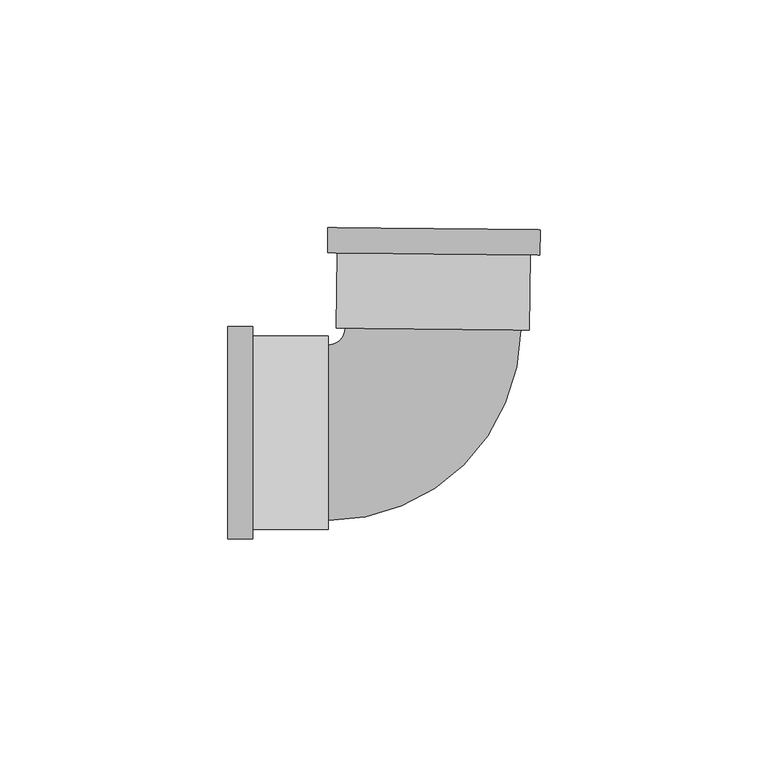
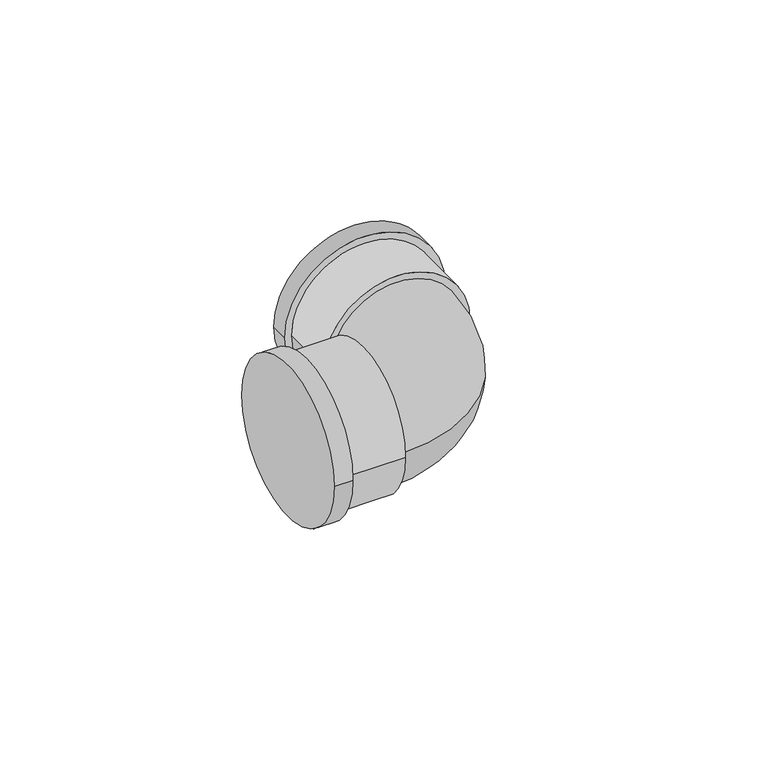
"""IFC4 building model written with IfcOpenShell, lengths in millimetres: pipe fitting geometry, Cotovelo - PVC - CW : Padrão."""

from ifc_helpers import new_model, si_unit, point, frame, origin, place, context, project, spatial, circle_curve, ellipse_curve, trimmed, source, transform, mapped, element, save
from ifc_brep_helpers import plane_surface, cylinder_surface, revolved_surface, advanced_brep


def pipe_fitting_56ef2ba5(model_context):
    return source(origin(), model_context, "Body", "AdvancedBrep", [
        advanced_brep(
        [(-44.77115, -23.2925, 0.0), (-44.77115, 23.2925, 0.0), (-39.27115, -23.2925, 0.0), (-39.27115, 23.2925, 0.0), (-39.27115, -21.175, 0.0), (-39.27115, 21.175, 0.0), (-22.77115, 21.175, 0.0), (-22.77115, -21.175, 0.0), (-22.77115, -19.25, 0.0), (-22.77115, 19.25, 0.0), (-19.0213375, 22.9625019, 0.0), (19.4767377, 22.5775211, 0.0), (21.4016414, 22.5582721, 0.0), (-20.9462412, 22.9817509, 0.0), (-22.8436463, 45.0018249, 0.0), (23.7390246, 44.5359982, 0.0), (21.5666332, 39.0574471, 0.0), (-20.7812495, 39.480926, 0.0), (-22.8986436, 39.5020999, 0.0), (23.6840273, 39.0362732, 0.0)],
        [
            (0, 1, circle_curve(frame((-44.77115, 0.0, 0.0), z_axis=(-1.0, 0.0, 0.0), x_axis=(0.0, 1.0, 0.0)), 23.2925)),
            (1, 0, circle_curve(frame((-44.77115, 0.0, 0.0), z_axis=(-1.0, 0.0, 0.0), x_axis=(0.0, 1.0, 0.0)), 23.2925)),
            (2, 3, circle_curve(frame((-39.27115, 0.0, 0.0), z_axis=(1.0, 0.0, 0.0), x_axis=(0.0, 1.0, 0.0)), 23.2925)),
            (3, 2, circle_curve(frame((-39.27115, 0.0, 0.0), z_axis=(1.0, 0.0, 0.0), x_axis=(0.0, 1.0, 0.0)), 23.2925)),
            (4, 5, circle_curve(frame((-39.27115, 0.0, 0.0), z_axis=(-1.0, 0.0, 0.0), x_axis=(0.0, -1.0, 0.0)), 21.175)),
            (5, 4, circle_curve(frame((-39.27115, 0.0, 0.0), z_axis=(-1.0, 0.0, 0.0), x_axis=(0.0, -1.0, 0.0)), 21.175)),
            (0, 2),
            (3, 1),
            (6, 7, circle_curve(frame((-22.77115, 0.0, 0.0), z_axis=(1.0, 0.0, 0.0), x_axis=(0.0, -1.0, 0.0)), 21.175)),
            (7, 6, circle_curve(frame((-22.77115, 0.0, 0.0), z_axis=(1.0, 0.0, 0.0), x_axis=(0.0, -1.0, 0.0)), 21.175)),
            (8, 9, circle_curve(frame((-22.77115, 0.0, 0.0), z_axis=(-1.0, 0.0, 0.0), x_axis=(0.0, 1.0, 0.0)), 19.25)),
            (9, 8, circle_curve(frame((-22.77115, 0.0, 0.0), z_axis=(-1.0, 0.0, 0.0), x_axis=(0.0, 1.0, 0.0)), 19.25)),
            (6, 5),
            (4, 7),
            (10, 9, circle_curve(frame((-22.77115, 23.0, 0.0), z_axis=(0.0, 0.0, -1.0), x_axis=(0.0, -1.0, 0.0)), 3.75)),
            (8, 11, circle_curve(frame((-22.77115, 23.0, 0.0), z_axis=(0.0, 0.0, 1.0), x_axis=(0.0, -1.0, 0.0)), 42.25)),
            (11, 10, circle_curve(frame((0.2277001, 22.7700115, 0.0), z_axis=(-0.00999950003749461, -0.9999500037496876, 0.0), x_axis=(-0.9999500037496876, 0.00999950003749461, 0.0)), 19.25)),
            (10, 11, circle_curve(frame((0.2277001, 22.7700115, 0.0), z_axis=(-0.00999950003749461, -0.9999500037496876, 0.0), x_axis=(-0.9999500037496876, 0.00999950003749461, 0.0)), 19.25)),
            (12, 13, circle_curve(frame((0.2277001, 22.7700115, 0.0), z_axis=(-0.009999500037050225, -0.999950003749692, 0.0), x_axis=(-0.999950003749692, 0.009999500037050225, 0.0)), 21.175)),
            (13, 12, circle_curve(frame((0.2277001, 22.7700115, 0.0), z_axis=(-0.009999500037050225, -0.999950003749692, 0.0), x_axis=(-0.999950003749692, 0.009999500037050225, 0.0)), 21.175)),
            (14, 15, circle_curve(frame((0.4476891, 44.7689116, 0.0), z_axis=(0.009999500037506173, 0.9999500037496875, 0.0), x_axis=(0.9999500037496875, -0.009999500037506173, 0.0)), 23.2925)),
            (15, 14, circle_curve(frame((0.4476891, 44.7689116, 0.0), z_axis=(0.009999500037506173, 0.9999500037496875, 0.0), x_axis=(0.9999500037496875, -0.009999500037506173, 0.0)), 23.2925)),
            (12, 16),
            (16, 17, circle_curve(frame((0.3926919, 39.2691866, 0.0), z_axis=(-0.009999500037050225, -0.999950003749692, 0.0), x_axis=(-0.999950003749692, 0.009999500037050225, 0.0)), 21.175)),
            (17, 13),
            (17, 16, circle_curve(frame((0.3926919, 39.2691866, 0.0), z_axis=(-0.009999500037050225, -0.999950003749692, 0.0), x_axis=(-0.999950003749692, 0.009999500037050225, 0.0)), 21.175)),
            (18, 19, circle_curve(frame((0.3926919, 39.2691866, 0.0), z_axis=(-0.009999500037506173, -0.9999500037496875, 0.0), x_axis=(0.9999500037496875, -0.009999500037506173, 0.0)), 23.2925)),
            (19, 18, circle_curve(frame((0.3926919, 39.2691866, 0.0), z_axis=(-0.009999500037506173, -0.9999500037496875, 0.0), x_axis=(0.9999500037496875, -0.009999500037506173, 0.0)), 23.2925)),
            (14, 18),
            (19, 15),
        ],
        [
            plane_surface(frame((-44.77115, 0.0, 0.0), z_axis=(-1.0, 0.0, 0.0), x_axis=(0.0, 0.0, 1.0))),
            plane_surface(frame((-39.27115, 0.0, 0.0), z_axis=(1.0, 0.0, 0.0), x_axis=(0.0, 0.0, 1.0))),
            cylinder_surface(frame((-44.77115, 0.0, 0.0), z_axis=(-1.0, 0.0, 0.0), x_axis=(0.0, 1.0, 0.0)), 23.2925),
            plane_surface(frame((-22.77115, 0.0, 0.0), z_axis=(1.0, 0.0, 0.0), x_axis=(0.0, 0.0, 1.0))),
            cylinder_surface(frame((-22.77115, 0.0, 0.0), z_axis=(1.0, 0.0, 0.0), x_axis=(0.0, -1.0, 0.0)), 21.175),
            revolved_surface(trimmed(ellipse_curve(frame((-22.77115, 0.0, 0.0), z_axis=(-1.0, 0.0, 0.0), x_axis=(0.0, 1.0, 0.0)), 19.25, 19.25), [point((-22.77115, -19.25, 0.0))], [point((-22.77115, 19.25, 0.0))], True, "CARTESIAN"), (-22.77115, 23.0, 0.0), (0.0, 0.0, 1.0)),
            revolved_surface(trimmed(ellipse_curve(frame((-22.77115, 0.0, 0.0), z_axis=(-1.0, 0.0, 0.0), x_axis=(0.0, 1.0, 0.0)), 19.25, 19.25), [point((-22.77115, 19.25, 0.0))], [point((-22.77115, -19.25, 0.0))], True, "CARTESIAN"), (-22.77115, 23.0, 0.0), (0.0, 0.0, 1.0)),
            plane_surface(frame((0.2277001, 22.7700115, 0.0), z_axis=(-0.009999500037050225, -0.999950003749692, 0.0), x_axis=(0.0, 0.0, 1.0))),
            plane_surface(frame((0.4476891, 44.7689116, 0.0), z_axis=(0.009999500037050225, 0.999950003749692, 0.0), x_axis=(0.0, 0.0, 1.0))),
            cylinder_surface(frame((0.2277001, 22.7700115, 0.0), z_axis=(-0.009999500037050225, -0.999950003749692, 0.0), x_axis=(-0.999950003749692, 0.009999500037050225, 0.0)), 21.175),
            plane_surface(frame((0.3926919, 39.2691866, 0.0), z_axis=(-0.009999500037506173, -0.9999500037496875, 0.0), x_axis=(0.0, 0.0, 1.0))),
            cylinder_surface(frame((0.4476891, 44.7689116, 0.0), z_axis=(0.009999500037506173, 0.9999500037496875, 0.0), x_axis=(0.9999500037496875, -0.009999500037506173, 0.0)), 23.2925),
        ],
        [
            (0, [[1, 2]]),
            (1, [[3, 4], [5, 6]]),
            (2, [[-1, 7, -4, 8]]),
            (2, [[-2, -8, -3, -7]]),
            (3, [[9, 10], [11, 12]]),
            (4, [[-9, 13, -5, 14]]),
            (4, [[-10, -14, -6, -13]]),
            (5, [[15, -11, 16, 17]]),
            (6, [[-15, 18, -16, -12]]),
            (7, [[19, 20], [-17, -18]]),
            (8, [[21, 22]]),
            (9, [[-19, 23, 24, 25]]),
            (9, [[-20, -25, 26, -23]]),
            (10, [[27, 28], [-24, -26]]),
            (11, [[-21, 29, -28, 30]]),
            (11, [[-22, -30, -27, -29]]),
        ],
    ),
    ])


if __name__ == "__main__":
    model = new_model("IFC4")
    model_context = context("Model", 3, world=origin())
    ifc_project = project(units=[si_unit("LENGTHUNIT", "METRE", prefix="MILLI")], contexts=[model_context])
    site = spatial("IfcSite", under=ifc_project)
    building = spatial("IfcBuilding", under=site)
    placement = place(None, origin())
    pipe_fitting_shape = pipe_fitting_56ef2ba5(model_context)
    element("IfcPipeFitting", 1, ObjectType="Cotovelo - PVC - CW : Padrão", at=placement, inside=building, context=model_context, shape_type="MappedRepresentation", body=[
        mapped(pipe_fitting_shape, transform((0.0, 0.0, 0.0), x_axis=(1.0, 0.0, 0.0), y_axis=(0.0, 1.0, 0.0), z_axis=(0.0, 0.0, 1.0))),
    ])
    save(model, "model.ifc")
